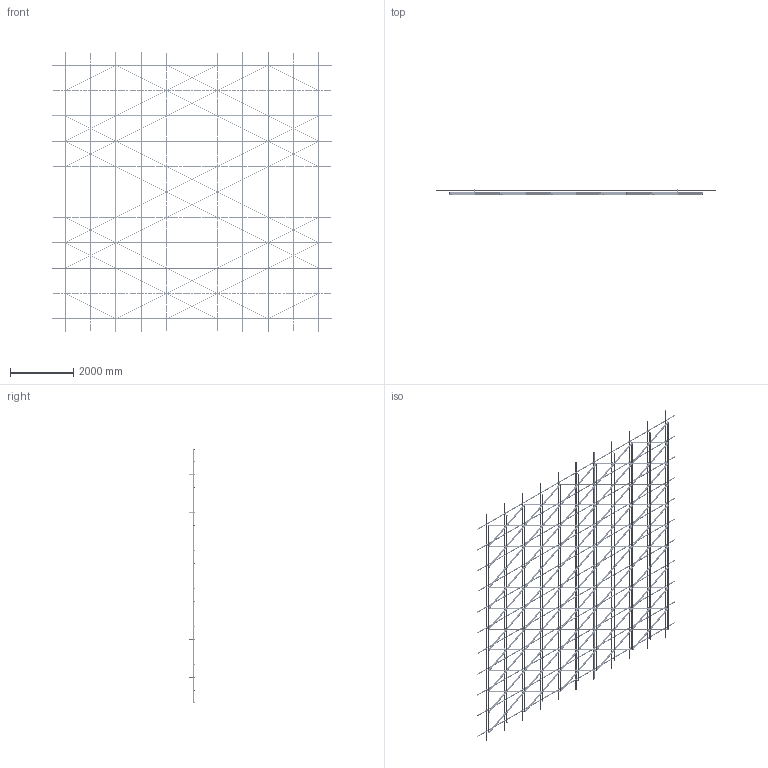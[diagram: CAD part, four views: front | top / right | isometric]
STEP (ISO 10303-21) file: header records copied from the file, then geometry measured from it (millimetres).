
FILE_DESCRIPTION (( 'STEP AP203' ), '1' );
FILE_NAME ('7 ìèíè ñ ïñ.step', '2025-11-25T13:27:28', ( '' ), ( '' ), 'SwSTEP 2.0', 'SolidWorks 2020', '' );
FILE_SCHEMA (( 'CONFIG_CONTROL_DESIGN' ));
Length unit declared in the file: millimetre
Products named in the file (5): 7 ìèíè ñ ïñ; Ñèñòåìà â çîíå 8000õ8000; SS.SEMA.2400 - Ñèìà-ïðîôèëü; Var7; SS.SEMA.2400 - Ñèìà-ïðîôèëü — îáðåçàí 1600
Assembly tree (90 placements, depth 3):
  7 ìèíè ñ ïñ
    Ñèñòåìà â çîíå 8000õ8000
      SS.SEMA.2400 - Ñèìà-ïðîôèëü  x66
      SS.SEMA.2400 - Ñèìà-ïðîôèëü — îáðåçàí 1600  x22
    Var7
Bounding box: 8800 x 158 x 8800 mm (x, y, z)
Volume: 131085771.1 mm3; surface area: 60738796.4 mm2
Topology: 907 solids, 907 shells, 20406 faces, 54368 edges, 35776 vertices
Faces by surface type: cylinder 12866, plane 7540
Entity records: 106925 total; most frequent: CARTESIAN_POINT 27148, ORIENTED_EDGE 15584, DIRECTION 14198, EDGE_CURVE 7792, AXIS2_PLACEMENT_3D 6850, VERTEX_POINT 5184, B_SPLINE_CURVE_WITH_KNOTS 4788, EDGE_LOOP 4412
